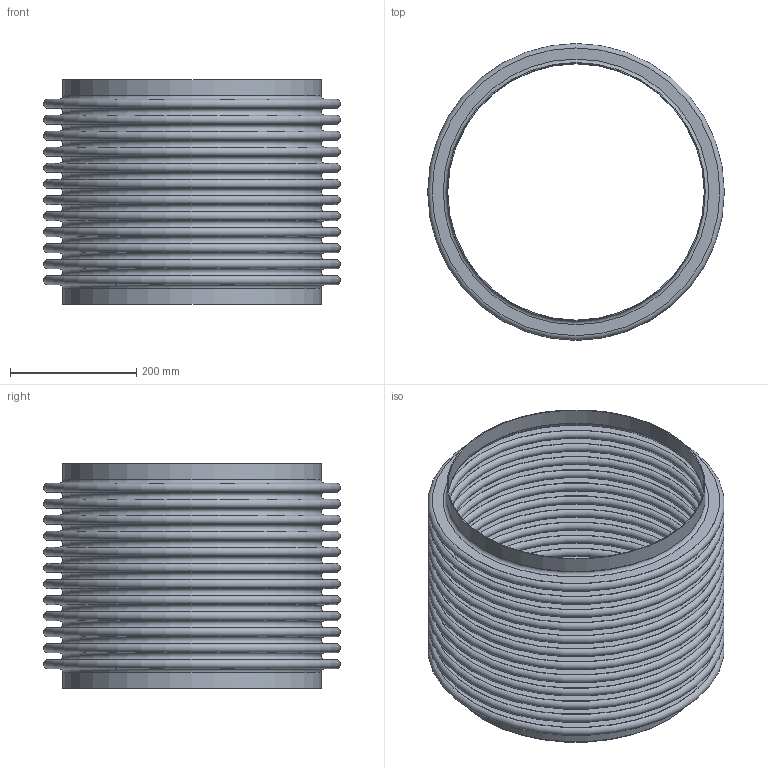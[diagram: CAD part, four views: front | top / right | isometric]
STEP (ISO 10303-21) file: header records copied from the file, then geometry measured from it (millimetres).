
FILE_DESCRIPTION(/* description */ ('STOCK BELLOWS: U.S-16-12-150L, 16.000 I.D., 18.500 O.D., 1 PLY, 16 GA (0.060 THICK), 12 CONS., 1.000 PITCH, 1.000 TANGENT. '),/* implementation_level */ '2;1');
FILE_NAME(/* name */ 'STOCK BELLOW - US-16-12-150L.stp',/* time_stamp */ '2026-07-21T13:05:17-05:00',/* author */ ('KennethB'),/* organization */ (''),/* preprocessor_version */ 'ST-DEVELOPER v20.1',/* originating_system */ 'Autodesk Inventor 2026',/* authorisation */ '');
FILE_SCHEMA (('AUTOMOTIVE_DESIGN { 1 0 10303 214 3 1 1 }'));
Length unit declared in the file: inch
Products named in the file (1): STOCK BELLOW - US-16-12-150L
Bounding box: 469.9 x 469.9 x 355.6 mm (x, y, z)
Volume: 1985954.2 mm3; surface area: 2617957.5 mm2
Topology: 3 solids, 3 shells, 108 faces, 162 edges, 109 vertices
Faces by surface type: plane 54, torus 50, cylinder 4
Full cylindrical faces by diameter (mm): 406.4 x2, 409.448 x2
Entity records: 2550 total; most frequent: DIRECTION 538, CARTESIAN_POINT 380, ORIENTED_EDGE 324, AXIS2_PLACEMENT_3D 267, EDGE_LOOP 162, EDGE_CURVE 162, CIRCLE 158, FACE_OUTER_BOUND 108
